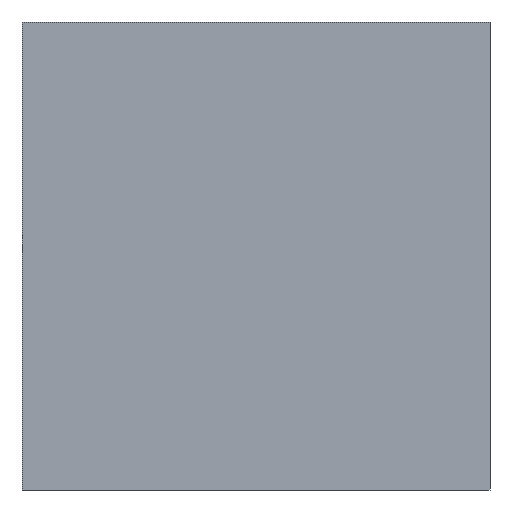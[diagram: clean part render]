
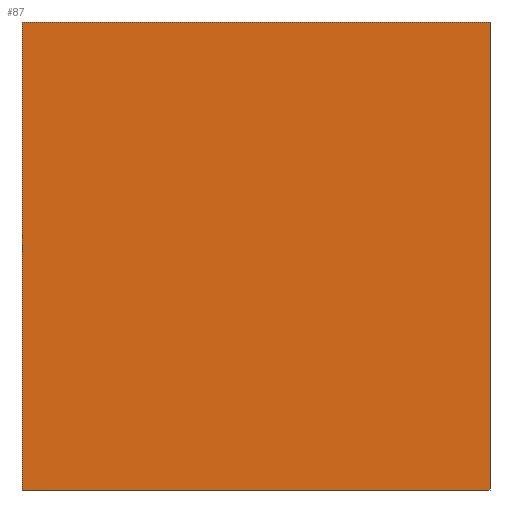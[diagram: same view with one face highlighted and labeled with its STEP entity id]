
A CAD part, front view. The second image highlights one B-rep face of the part: STEP entity #87.
In plain terms, the highlighted planar face has unit normal (0, -1, 0).
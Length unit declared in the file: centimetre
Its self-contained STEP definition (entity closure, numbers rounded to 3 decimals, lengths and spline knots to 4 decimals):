
#18 = CARTESIAN_POINT ( 'NONE',  ( 0., 0., 1000. ) ) ;
#20 = AXIS2_PLACEMENT_3D ( 'NONE', #18, #390, #166 ) ;
#29 = LINE ( 'NONE', #143, #387 ) ;
#74 = CARTESIAN_POINT ( 'NONE',  ( 1000., 0., 0. ) ) ;
#86 = CARTESIAN_POINT ( 'NONE',  ( 0., 0., 1000. ) ) ;
#87 = ADVANCED_FACE ( 'NONE', ( #403 ), #203, .F. ) ;
#110 = DIRECTION ( 'NONE',  ( 1., 0., 0. ) ) ;
#141 = VERTEX_POINT ( 'NONE', #371 ) ;
#143 = CARTESIAN_POINT ( 'NONE',  ( 0., 0., 0. ) ) ;
#151 = ORIENTED_EDGE ( 'NONE', *, *, #202, .T. ) ;
#166 = DIRECTION ( 'NONE',  ( 0., 0., 1. ) ) ;
#168 = VERTEX_POINT ( 'NONE', #434 ) ;
#192 = VERTEX_POINT ( 'NONE', #211 ) ;
#202 = EDGE_CURVE ( 'NONE', #168, #274, #29, .T. ) ;
#203 = PLANE ( 'NONE',  #20 ) ;
#211 = CARTESIAN_POINT ( 'NONE',  ( 0., 0., 1000. ) ) ;
#217 = VECTOR ( 'NONE', #279, 100. ) ;
#219 = CARTESIAN_POINT ( 'NONE',  ( 0., 0., 1000. ) ) ;
#238 = VECTOR ( 'NONE', #327, 100. ) ;
#266 = EDGE_CURVE ( 'NONE', #192, #168, #315, .T. ) ;
#271 = LINE ( 'NONE', #306, #297 ) ;
#274 = VERTEX_POINT ( 'NONE', #74 ) ;
#279 = DIRECTION ( 'NONE',  ( 0., 0., -1. ) ) ;
#295 = ORIENTED_EDGE ( 'NONE', *, *, #340, .F. ) ;
#297 = VECTOR ( 'NONE', #420, 100. ) ;
#306 = CARTESIAN_POINT ( 'NONE',  ( 1000., 0., 1000. ) ) ;
#315 = LINE ( 'NONE', #219, #217 ) ;
#327 = DIRECTION ( 'NONE',  ( 1., 0., 0. ) ) ;
#332 = LINE ( 'NONE', #86, #238 ) ;
#340 = EDGE_CURVE ( 'NONE', #192, #141, #332, .T. ) ;
#362 = ORIENTED_EDGE ( 'NONE', *, *, #266, .T. ) ;
#371 = CARTESIAN_POINT ( 'NONE',  ( 1000., 0., 1000. ) ) ;
#383 = EDGE_LOOP ( 'NONE', ( #151, #468, #295, #362 ) ) ;
#387 = VECTOR ( 'NONE', #110, 100. ) ;
#390 = DIRECTION ( 'NONE',  ( 0., 1., 0. ) ) ;
#403 = FACE_OUTER_BOUND ( 'NONE', #383, .T. ) ;
#420 = DIRECTION ( 'NONE',  ( 0., 0., -1. ) ) ;
#434 = CARTESIAN_POINT ( 'NONE',  ( 0., 0., 0. ) ) ;
#448 = EDGE_CURVE ( 'NONE', #141, #274, #271, .T. ) ;
#468 = ORIENTED_EDGE ( 'NONE', *, *, #448, .F. ) ;
